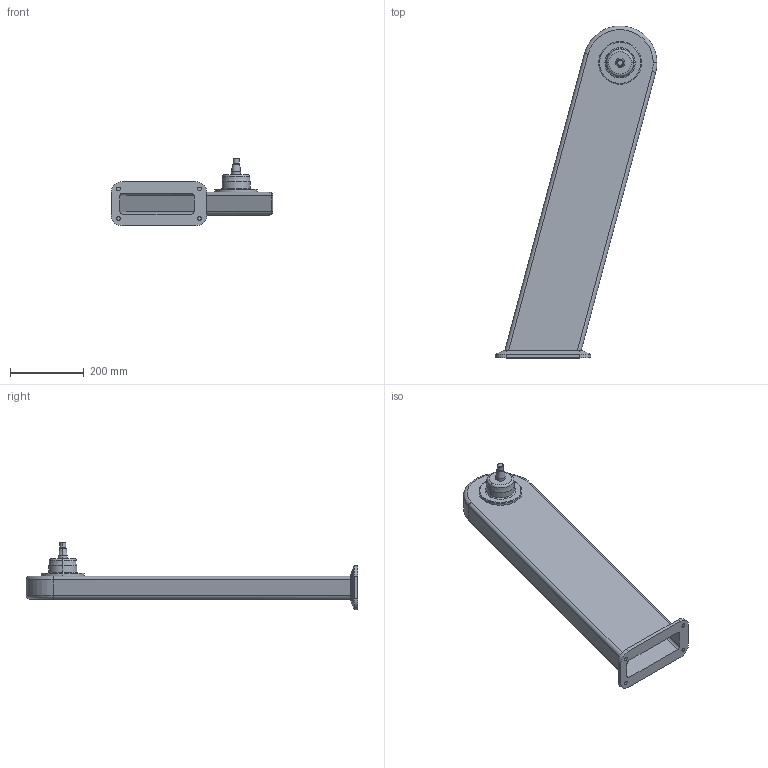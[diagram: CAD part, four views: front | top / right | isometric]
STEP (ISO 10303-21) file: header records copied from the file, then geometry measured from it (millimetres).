
FILE_DESCRIPTION (( 'STEP AP214' ), '1' );
FILE_NAME ('WP800_H800_+15.STEP', '2014-06-26T12:49:15', ( '' ), ( '' ), 'SwSTEP 2.0', 'SolidWorks 2014', '' );
FILE_SCHEMA (( 'AUTOMOTIVE_DESIGN' ));
Length unit declared in the file: millimetre
Products named in the file (1): WP800_H800_+15
Bounding box: 439 x 899.89 x 183.29 mm (x, y, z)
Volume: 1945685.5 mm3; surface area: 971810.2 mm2
Topology: 1 solids, 1 shells, 92 faces, 202 edges, 122 vertices
Faces by surface type: cylinder 36, plane 26, cone 16, torus 14
Entity records: 2564 total; most frequent: DIRECTION 484, CARTESIAN_POINT 441, ORIENTED_EDGE 404, EDGE_CURVE 202, AXIS2_PLACEMENT_3D 197, VERTEX_POINT 122, CIRCLE 104, EDGE_LOOP 104
